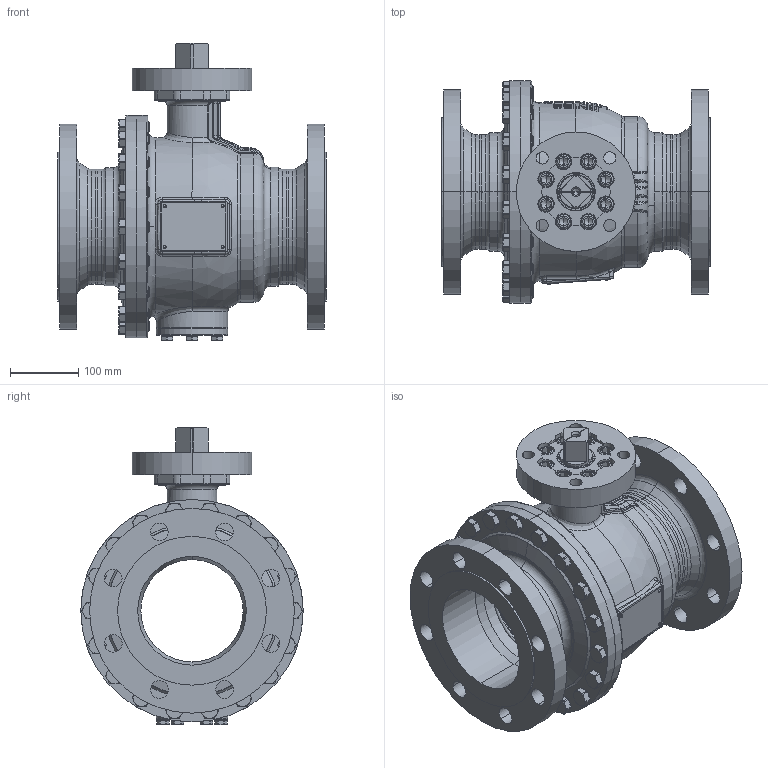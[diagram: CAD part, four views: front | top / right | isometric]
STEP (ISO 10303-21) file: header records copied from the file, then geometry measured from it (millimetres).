
FILE_DESCRIPTION((''),'2;1');
FILE_NAME('KHI-F_150_PN025-F14-4_SW0001','2026-02-05T10:56:57',('fischerkl'),('KLINGER'),'CREO PARAMETRIC BY PTC INC, 2023014','CREO PARAMETRIC BY PTC INC, 2023014','');
FILE_SCHEMA(('CONFIG_CONTROL_DESIGN'));
Products named in the file (1): KHI-F_150_PN025-F14-4_SW0001
Bounding box: 394 x 326 x 436.2 mm (x, y, z)
Volume: 8727633.8 mm3; surface area: 1593685.8 mm2
Topology: 1 solids, 4 shells, 3723 faces, 9554 edges, 5962 vertices
Faces by surface type: plane 2284, cylinder 674, cone 366, torus 258, bspline 113, sphere 28
Entity records: 144498 total; most frequent: CARTESIAN_POINT 56346, ORIENTED_EDGE 19056, DIRECTION 17426, EDGE_CURVE 9528, AXIS2_PLACEMENT_3D 6147, VERTEX_POINT 5962, VECTOR 5132, LINE 5132
